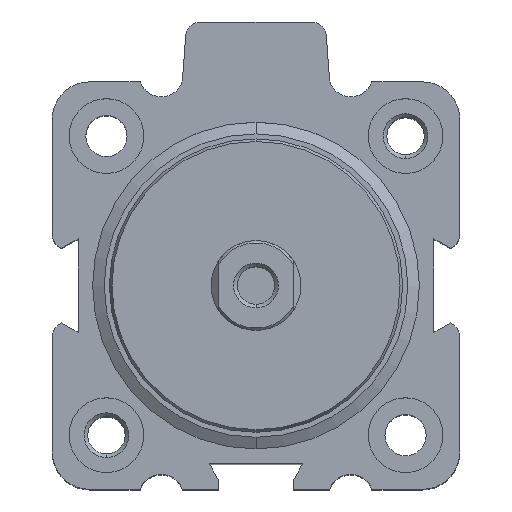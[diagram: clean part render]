
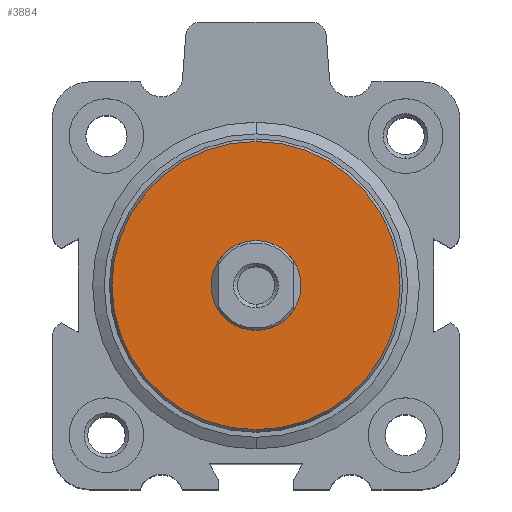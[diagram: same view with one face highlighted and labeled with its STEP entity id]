
A CAD part, top view. The second image highlights one B-rep face of the part: STEP entity #3884.
In plain terms, the highlighted planar face has unit normal (0, 0, 1).
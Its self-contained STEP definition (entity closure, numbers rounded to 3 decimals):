
#1405=CARTESIAN_POINT('',(0.,0.,-0.2));
#1406=DIRECTION('',(0.,0.,-1.));
#1407=DIRECTION('',(0.,1.,0.));
#1408=AXIS2_PLACEMENT_3D('',#1405,#1406,#1407);
#1414=CARTESIAN_POINT('',(0.,0.,-0.2));
#1415=DIRECTION('',(0.,0.,1.));
#1416=DIRECTION('',(0.,1.,0.));
#1417=AXIS2_PLACEMENT_3D('',#1414,#1415,#1416);
#1423=CARTESIAN_POINT('',(0.,0.,-0.2));
#1424=DIRECTION('',(0.,0.,1.));
#1425=DIRECTION('',(0.,1.,0.));
#1426=AXIS2_PLACEMENT_3D('',#1423,#1424,#1425);
#1433=CARTESIAN_POINT('',(0.,0.,-0.2));
#1434=DIRECTION('',(0.,0.,1.));
#1435=DIRECTION('',(0.,-1.,0.));
#1436=AXIS2_PLACEMENT_3D('',#1433,#1434,#1435);
#1811=CARTESIAN_POINT('',(0.,19.268,-0.2));
#1813=VERTEX_POINT('',#1811);
#1819=CARTESIAN_POINT('',(0.,-19.268,-0.2));
#1821=VERTEX_POINT('',#1819);
#1831=CARTESIAN_POINT('',(0.,6.,-0.2));
#1832=CARTESIAN_POINT('',(0.,-6.,-0.2));
#1833=VERTEX_POINT('',#1831);
#1834=VERTEX_POINT('',#1832);
#3869=CARTESIAN_POINT('',(0.,0.,-0.2));
#3870=DIRECTION('',(0.,0.,-1.));
#3871=DIRECTION('',(0.,-1.,0.));
#3872=AXIS2_PLACEMENT_3D('',#3869,#3870,#3871);
#3873=PLANE('',#3872);
#3874=ORIENTED_EDGE('',*,*,#3862,.F.);
#3875=ORIENTED_EDGE('',*,*,#3851,.T.);
#3876=EDGE_LOOP('',(#3874,#3875));
#3877=FACE_OUTER_BOUND('',#3876,.F.);
#3879=ORIENTED_EDGE('',*,*,#3878,.T.);
#3881=ORIENTED_EDGE('',*,*,#3880,.T.);
#3882=EDGE_LOOP('',(#3879,#3881));
#3883=FACE_BOUND('',#3882,.F.);
#3884=ADVANCED_FACE('',(#3877,#3883),#3873,.F.);
#1409=CIRCLE('',#1408,19.268);
#1418=CIRCLE('',#1417,19.268);
#1427=CIRCLE('',#1426,6.);
#1437=CIRCLE('',#1436,6.);
#3851=EDGE_CURVE('',#1813,#1821,#1409,.T.);
#3862=EDGE_CURVE('',#1813,#1821,#1418,.T.);
#3878=EDGE_CURVE('',#1833,#1834,#1427,.T.);
#3880=EDGE_CURVE('',#1834,#1833,#1437,.T.);
